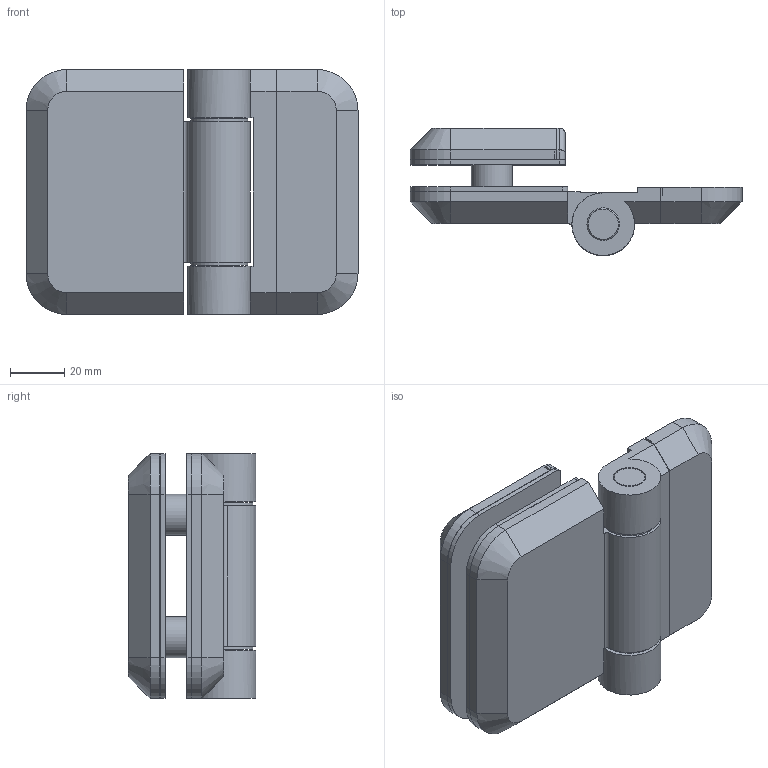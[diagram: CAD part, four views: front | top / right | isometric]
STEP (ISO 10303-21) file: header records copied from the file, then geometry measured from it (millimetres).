
FILE_DESCRIPTION(/* description */ ('STEP AP214'),/* implementation_level */ '2;1');
FILE_NAME(/* name */ 'Hinge GN 938-ZD-122-90-8-SR (8-0)',/* time_stamp */ '2024-03-14T14:42:43+01:00',/* author */ ('License CC BY-ND 4.0'),/* organization */ ('CADENAS'),/* preprocessor_version */ 'ST-DEVELOPER v19.3',/* originating_system */ 'PARTsolutions',/* authorisation */ ' ');
FILE_SCHEMA (('AUTOMOTIVE_DESIGN {1 0 10303 214 3 1 1}'));
Length unit declared in the file: millimetre
Products named in the file (4): Hinge GN 938-ZD-122-90-8-SR (8-0); Hinge GN 938-ZD-122-90-8-SR (8)-2; Hinge GN 938-ZD-122-90-8-SR (8)-1; Hinge GN 938-ZD-122-90-8-SR (8)-3
Assembly tree (3 placements, depth 2):
  Hinge GN 938-ZD-122-90-8-SR (8-0)
    Hinge GN 938-ZD-122-90-8-SR (8)-2
    Hinge GN 938-ZD-122-90-8-SR (8)-1
    Hinge GN 938-ZD-122-90-8-SR (8)-3
Bounding box: 122 x 46.79 x 90 mm (x, y, z)
Volume: 205074.7 mm3; surface area: 51880.3 mm2
Topology: 3 solids, 3 shells, 169 faces, 406 edges, 261 vertices
Faces by surface type: plane 107, cylinder 42, cone 20
Full cylindrical faces by diameter (mm): 6.647 x2, 8 x2, 8.4 x2, 12 x2, 12.1 x2, 13.5 x2, 13.7 x2, 15 x2, 21 x2
Entity records: 5582 total; most frequent: DIRECTION 817, CARTESIAN_POINT 800, ORIENTED_EDGE 742, EDGE_CURVE 371, AXIS2_PLACEMENT_3D 273, LINE 271, VECTOR 271, VERTEX_POINT 256
